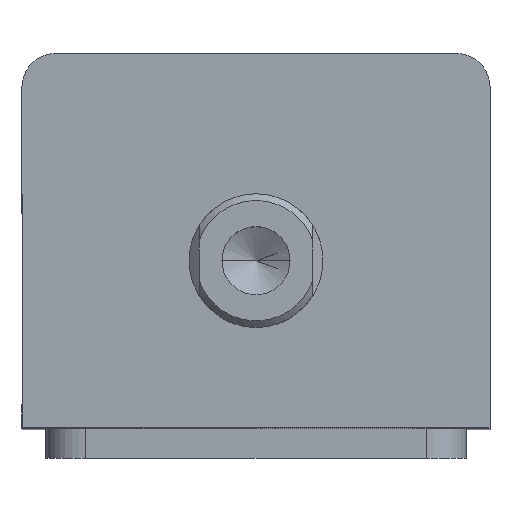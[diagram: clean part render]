
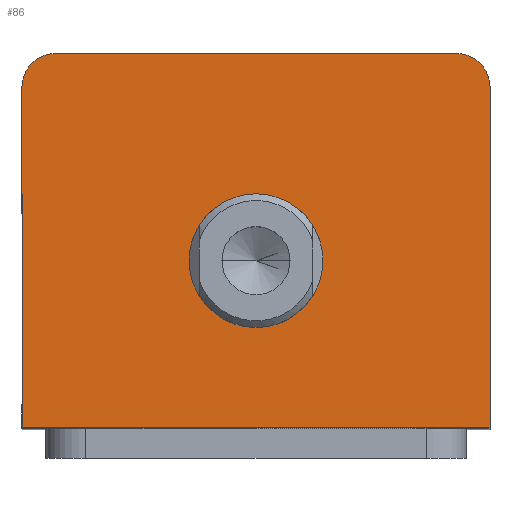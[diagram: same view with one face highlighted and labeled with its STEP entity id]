
A CAD part, top view. The second image highlights one B-rep face of the part: STEP entity #86.
In plain terms, the highlighted planar face has unit normal (0, 0, 1).
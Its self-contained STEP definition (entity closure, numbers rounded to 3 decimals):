
#86 = ADVANCED_FACE ( 'NONE', ( #896, #904 ), #2686, .T. ) ;
#135 = ORIENTED_EDGE ( 'NONE', *, *, #381, .F. ) ;
#140 = ORIENTED_EDGE ( 'NONE', *, *, #281, .T. ) ;
#144 = ORIENTED_EDGE ( 'NONE', *, *, #291, .T. ) ;
#145 = ORIENTED_EDGE ( 'NONE', *, *, #319, .T. ) ;
#146 = ORIENTED_EDGE ( 'NONE', *, *, #307, .T. ) ;
#147 = ORIENTED_EDGE ( 'NONE', *, *, #318, .T. ) ;
#151 = ORIENTED_EDGE ( 'NONE', *, *, #2666, .F. ) ;
#153 = ORIENTED_EDGE ( 'NONE', *, *, #261, .T. ) ;
#261 = EDGE_CURVE ( 'NONE', #1280, #1210, #1010, .T. ) ;
#281 = EDGE_CURVE ( 'NONE', #1300, #1335, #1038, .T. ) ;
#291 = EDGE_CURVE ( 'NONE', #1251, #1300, #1688, .T. ) ;
#307 = EDGE_CURVE ( 'NONE', #1335, #1240, #1712, .T. ) ;
#318 = EDGE_CURVE ( 'NONE', #1210, #1251, #1728, .T. ) ;
#319 = EDGE_CURVE ( 'NONE', #1240, #1280, #1730, .T. ) ;
#381 = EDGE_CURVE ( 'NONE', #1221, #1218, #1832, .T. ) ;
#441 = DIRECTION ( 'NONE',  ( 1., 0., 0. ) ) ;
#457 = CARTESIAN_POINT ( 'NONE',  ( 0., -3., 149. ) ) ;
#535 = CARTESIAN_POINT ( 'NONE',  ( 35., -28., 149. ) ) ;
#574 = DIRECTION ( 'NONE',  ( 0., 0., 1. ) ) ;
#733 = CARTESIAN_POINT ( 'NONE',  ( -35., -28., 149. ) ) ;
#819 = EDGE_LOOP ( 'NONE', ( #135, #151 ) ) ;
#825 = EDGE_LOOP ( 'NONE', ( #146, #145, #153, #147, #144, #140 ) ) ;
#896 = FACE_BOUND ( 'NONE', #819, .T. ) ;
#904 = FACE_OUTER_BOUND ( 'NONE', #825, .T. ) ;
#1010 = LINE ( 'NONE', #2717, #1013 ) ;
#1013 = VECTOR ( 'NONE', #2729, 1000. ) ;
#1038 = LINE ( 'NONE', #2431, #1042 ) ;
#1042 = VECTOR ( 'NONE', #2402, 1000. ) ;
#1210 = VERTEX_POINT ( 'NONE', #2077 ) ;
#1218 = VERTEX_POINT ( 'NONE', #2072 ) ;
#1221 = VERTEX_POINT ( 'NONE', #2069 ) ;
#1240 = VERTEX_POINT ( 'NONE', #2038 ) ;
#1251 = VERTEX_POINT ( 'NONE', #2022 ) ;
#1280 = VERTEX_POINT ( 'NONE', #1983 ) ;
#1300 = VERTEX_POINT ( 'NONE', #733 ) ;
#1335 = VERTEX_POINT ( 'NONE', #535 ) ;
#1688 = LINE ( 'NONE', #2328, #1692 ) ;
#1692 = VECTOR ( 'NONE', #2237, 1000. ) ;
#1712 = LINE ( 'NONE', #2123, #1715 ) ;
#1715 = VECTOR ( 'NONE', #2150, 1000. ) ;
#1728 = CIRCLE ( 'NONE', #2493, 5. ) ;
#1730 = CIRCLE ( 'NONE', #2492, 5. ) ;
#1832 = CIRCLE ( 'NONE', #2444, 10. ) ;
#1904 = CIRCLE ( 'NONE', #2392, 10. ) ;
#1975 = DIRECTION ( 'NONE',  ( 1., 0., 0. ) ) ;
#1982 = CARTESIAN_POINT ( 'NONE',  ( 30., 23., 149. ) ) ;
#1983 = CARTESIAN_POINT ( 'NONE',  ( 30., 28., 149. ) ) ;
#1999 = DIRECTION ( 'NONE',  ( 1., 0., 0. ) ) ;
#2010 = DIRECTION ( 'NONE',  ( 0., 0., 1. ) ) ;
#2013 = CARTESIAN_POINT ( 'NONE',  ( -30., 23., 149. ) ) ;
#2022 = CARTESIAN_POINT ( 'NONE',  ( -35., 23., 149. ) ) ;
#2038 = CARTESIAN_POINT ( 'NONE',  ( 35., 23., 149. ) ) ;
#2044 = DIRECTION ( 'NONE',  ( 0., 0., 1. ) ) ;
#2069 = CARTESIAN_POINT ( 'NONE',  ( 10., -3., 149. ) ) ;
#2072 = CARTESIAN_POINT ( 'NONE',  ( -10., -3., 149. ) ) ;
#2077 = CARTESIAN_POINT ( 'NONE',  ( -30., 28., 149. ) ) ;
#2123 = CARTESIAN_POINT ( 'NONE',  ( 35., 28., 149. ) ) ;
#2131 = DIRECTION ( 'NONE',  ( 1., 0., 0. ) ) ;
#2132 = DIRECTION ( 'NONE',  ( 0., 0., 1. ) ) ;
#2133 = CARTESIAN_POINT ( 'NONE',  ( 0., -3., 149. ) ) ;
#2150 = DIRECTION ( 'NONE',  ( 0., 1., 0. ) ) ;
#2237 = DIRECTION ( 'NONE',  ( 0., -1., 0. ) ) ;
#2328 = CARTESIAN_POINT ( 'NONE',  ( -35., 28., 149. ) ) ;
#2392 = AXIS2_PLACEMENT_3D ( 'NONE', #457, #574, #441 ) ;
#2402 = DIRECTION ( 'NONE',  ( 1., 0., 0. ) ) ;
#2431 = CARTESIAN_POINT ( 'NONE',  ( -35., -28., 149. ) ) ;
#2444 = AXIS2_PLACEMENT_3D ( 'NONE', #2133, #2132, #2131 ) ;
#2492 = AXIS2_PLACEMENT_3D ( 'NONE', #1982, #2044, #1999 ) ;
#2493 = AXIS2_PLACEMENT_3D ( 'NONE', #2013, #2010, #1975 ) ;
#2632 = AXIS2_PLACEMENT_3D ( 'NONE', #2695, #2677, #3017 ) ;
#2666 = EDGE_CURVE ( 'NONE', #1218, #1221, #1904, .T. ) ;
#2677 = DIRECTION ( 'NONE',  ( 0., 0., 1. ) ) ;
#2686 = PLANE ( 'NONE',  #2632 ) ;
#2695 = CARTESIAN_POINT ( 'NONE',  ( 0., 0., 149. ) ) ;
#2717 = CARTESIAN_POINT ( 'NONE',  ( -35., 28., 149. ) ) ;
#2729 = DIRECTION ( 'NONE',  ( -1., 0., 0. ) ) ;
#3017 = DIRECTION ( 'NONE',  ( 1., 0., 0. ) ) ;
